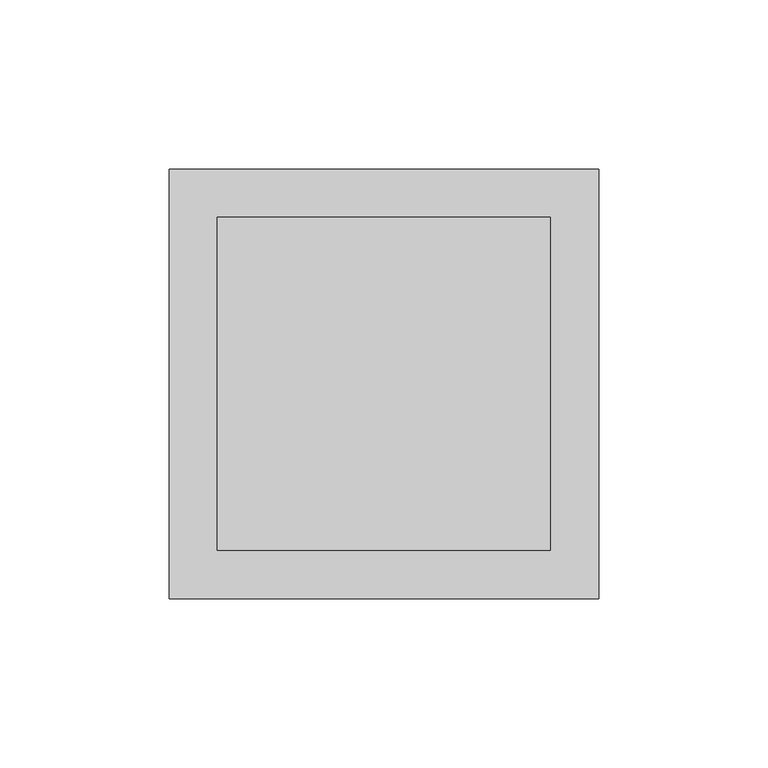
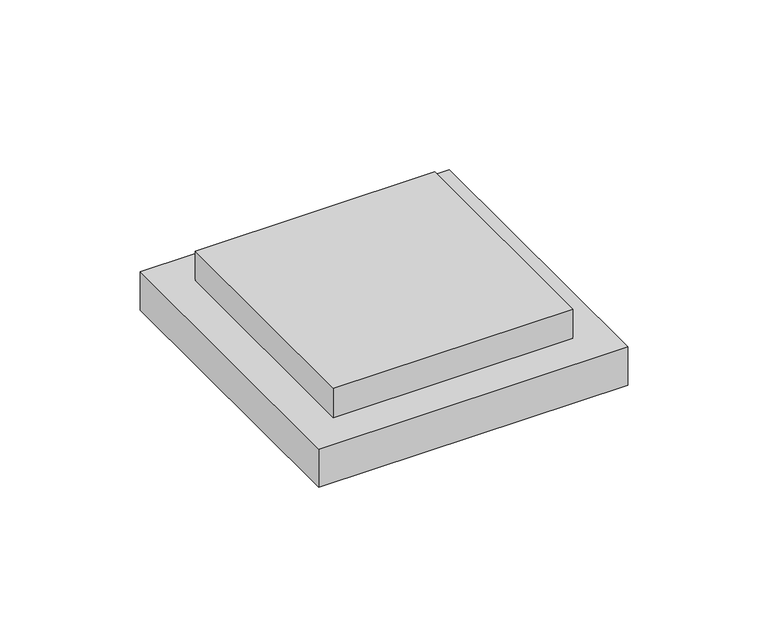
"""IFC4 building model written with IfcOpenShell, lengths in millimetres: light fixture geometry, LCMPD5Q_SURFACE MOUNT BASIC : LCMPD5QW-T30."""

from ifc_helpers import new_model, si_unit, frame, origin, origin_with_axes, place, context, project, spatial, polyline, outline, extrude, source, transform, mapped, element, save


def light_fixture_2619068b(model_context):
    return source(origin(), model_context, "Body", "SweptSolid", [
        extrude(outline(polyline([(63.5, 29.7007118), (63.5, -97.2992882), (-63.5, -97.2992882), (-63.5, 29.7007118), (63.5, 29.7007118)]), holes=[polyline([(49.2125, 15.4132118), (-49.2125, 15.4132118), (-49.2125, -83.0117882), (49.2125, -83.0117882), (49.2125, 15.4132118)])]), frame((0.0, 0.0, -16.6761838), z_axis=(0.0, 0.0, 1.0), x_axis=(1.0, 0.0, 0.0)), (0.0, 0.0, 1.0), 16.6761838),
        extrude(outline(polyline([(49.2125, 15.4132118), (49.2125, -83.0117882), (-49.2125, -83.0117882), (-49.2125, 15.4132118), (49.2125, 15.4132118)])), frame((0.0, 0.0, -16.2793088), z_axis=(0.0, 0.0, 1.0), x_axis=(1.0, 0.0, 0.0)), (0.0, 0.0, 1.0), 3.2405446),
        extrude(outline(polyline([(49.2125, 15.4132118), (49.2125, -83.0117882), (-49.2125, -83.0117882), (-49.2125, 15.4132118), (49.2125, 15.4132118)])), origin_with_axes(), (0.0, 0.0, 1.0), 12.7),
    ])


if __name__ == "__main__":
    model = new_model("IFC4")
    model_context = context("Model", 3, world=origin())
    ifc_project = project(units=[si_unit("LENGTHUNIT", "METRE", prefix="MILLI")], contexts=[model_context])
    site = spatial("IfcSite", under=ifc_project)
    building = spatial("IfcBuilding", under=site)
    placement = place(None, origin())
    light_fixture_shape = light_fixture_2619068b(model_context)
    element("IfcLightFixture", 1, ObjectType="LCMPD5Q_SURFACE MOUNT BASIC : LCMPD5QW-T30", at=placement, inside=building, context=model_context, shape_type="MappedRepresentation", body=[
        mapped(light_fixture_shape, transform((0.0, 0.0, 0.0), x_axis=(1.0, 0.0, 0.0), y_axis=(0.0, 1.0, 0.0), z_axis=(0.0, 0.0, 1.0))),
    ])
    save(model, "model.ifc")
